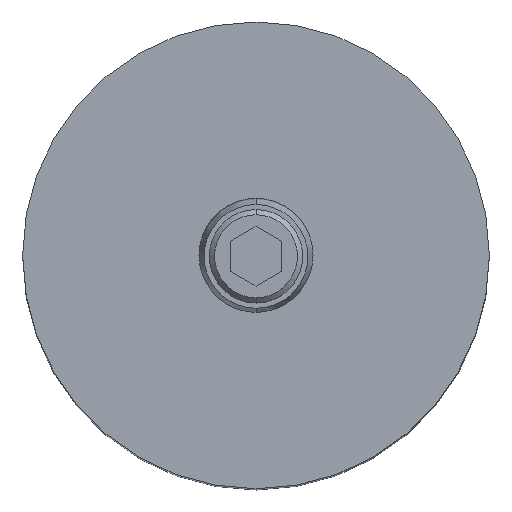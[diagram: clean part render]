
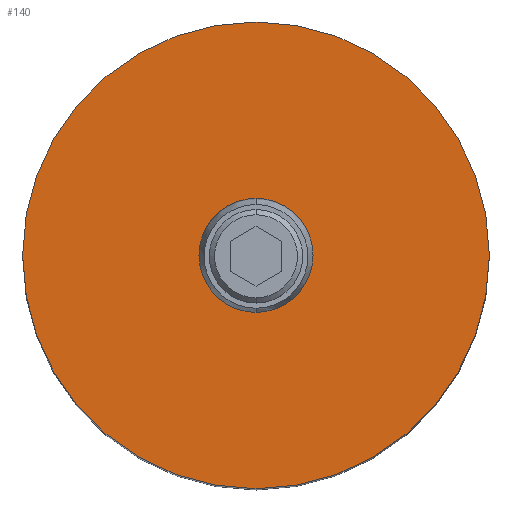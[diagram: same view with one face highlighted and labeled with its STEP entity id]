
A CAD part, top view. The second image highlights one B-rep face of the part: STEP entity #140.
In plain terms, the highlighted planar face has unit normal (0, 0, 1).
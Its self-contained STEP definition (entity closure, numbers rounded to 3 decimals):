
#110=PLANE('',#653);
#125=FACE_BOUND('',#221,.T.);
#126=FACE_BOUND('',#222,.T.);
#140=ADVANCED_FACE('',(#125,#126),#110,.T.);
#221=EDGE_LOOP('',(#311,#312));
#222=EDGE_LOOP('',(#313,#314));
#258=CIRCLE('',#641,45.);
#259=CIRCLE('',#643,45.);
#263=CIRCLE('',#649,11.);
#264=CIRCLE('',#651,11.);
#311=ORIENTED_EDGE('',*,*,#488,.F.);
#312=ORIENTED_EDGE('',*,*,#489,.F.);
#313=ORIENTED_EDGE('',*,*,#496,.T.);
#314=ORIENTED_EDGE('',*,*,#494,.T.);
#439=VERTEX_POINT('',#894);
#442=VERTEX_POINT('',#899);
#445=VERTEX_POINT('',#911);
#446=VERTEX_POINT('',#913);
#488=EDGE_CURVE('',#442,#439,#258,.T.);
#489=EDGE_CURVE('',#439,#442,#259,.T.);
#494=EDGE_CURVE('',#446,#445,#263,.T.);
#496=EDGE_CURVE('',#445,#446,#264,.T.);
#641=AXIS2_PLACEMENT_3D('',#900,#716,#717);
#643=AXIS2_PLACEMENT_3D('',#902,#720,#721);
#649=AXIS2_PLACEMENT_3D('',#912,#733,#734);
#651=AXIS2_PLACEMENT_3D('',#916,#738,#739);
#653=AXIS2_PLACEMENT_3D('',#918,#742,#743);
#716=DIRECTION('',(0.,0.,-1.));
#717=DIRECTION('',(1.,0.,0.));
#720=DIRECTION('',(0.,0.,-1.));
#721=DIRECTION('',(-1.,0.,0.));
#733=DIRECTION('',(0.,0.,-1.));
#734=DIRECTION('',(1.,0.,0.));
#738=DIRECTION('',(0.,0.,-1.));
#739=DIRECTION('',(-1.,0.,0.));
#742=DIRECTION('',(0.,0.,1.));
#743=DIRECTION('',(-1.,0.,0.));
#894=CARTESIAN_POINT('',(0.,45.,140.));
#899=CARTESIAN_POINT('',(0.,-45.,140.));
#900=CARTESIAN_POINT('',(0.,0.,140.));
#902=CARTESIAN_POINT('',(0.,0.,140.));
#911=CARTESIAN_POINT('',(0.,11.,140.));
#912=CARTESIAN_POINT('',(0.,0.,140.));
#913=CARTESIAN_POINT('',(0.,-11.,140.));
#916=CARTESIAN_POINT('',(0.,0.,140.));
#918=CARTESIAN_POINT('',(0.,0.,140.));
